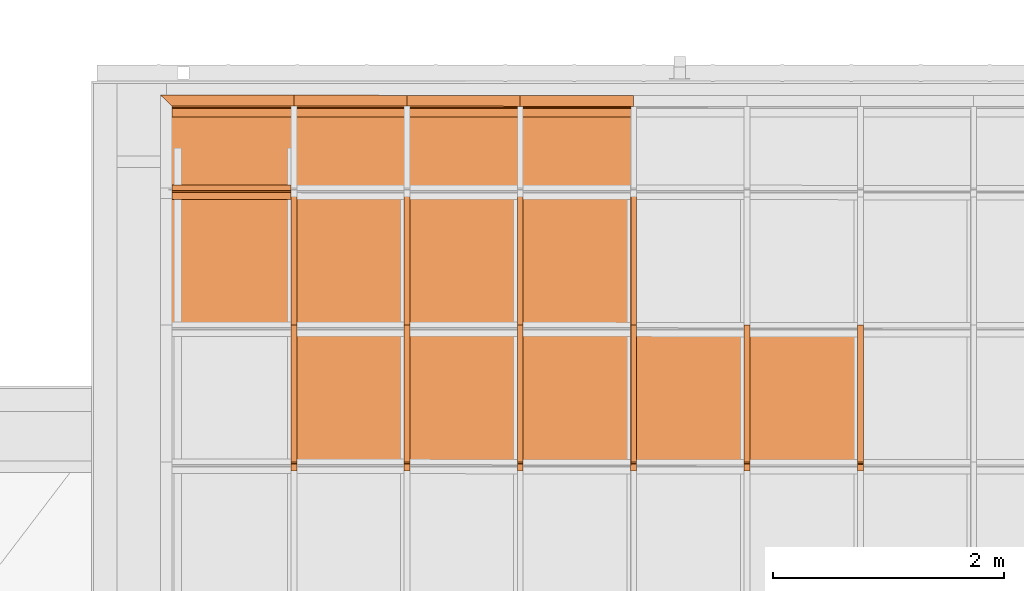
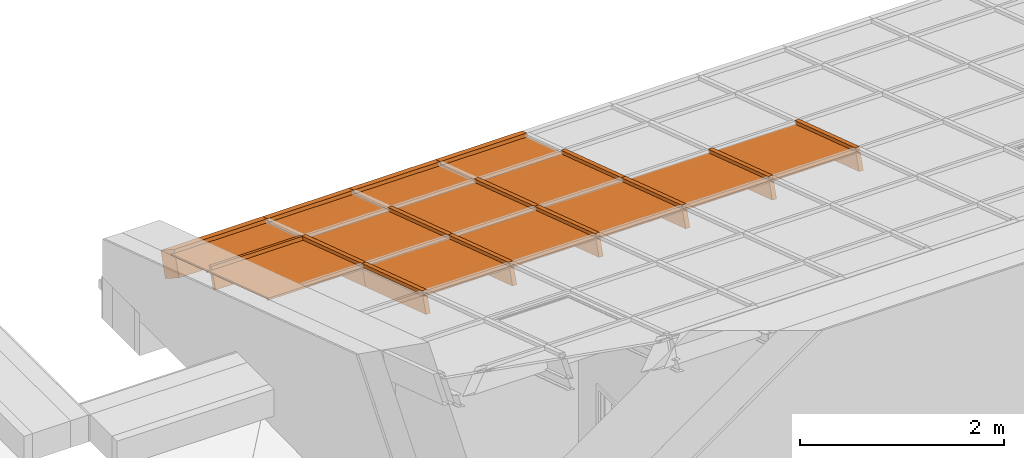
# One storey, part 32 of 47: 28 proxies, 1 element without a shape of its own.
"""IFC2X3 building model written with IfcOpenShell, lengths in millimetres."""

from ifc_helpers import new_model, entity, si_unit, converted_unit, derived_unit, money_unit, direction, frame, origin_with_axes, place, context, subcontext, project, spatial, polyline, outline, extrude, clip, halfspace, material, material_list, type_object, element, aggregate, save


model = new_model("IFC2X3")

# Units and contexts
model_context = context("Model", 3, precision=1e-05, world=origin_with_axes(), true_north=direction((0.0, 1.0)))
body_context = subcontext(model_context, "Body", "Model", "MODEL_VIEW")
ifc_project = project(units=[si_unit("LENGTHUNIT", "METRE", prefix="MILLI"), si_unit("AREAUNIT", "SQUARE_METRE"), si_unit("VOLUMEUNIT", "CUBIC_METRE"), converted_unit("PLANEANGLEUNIT", "DEGREE", entity("IfcPlaneAngleMeasure", 0.0174532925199), si_unit("PLANEANGLEUNIT", "RADIAN"), dimensions=[0, 0, 0, 0, 0, 0, 0]), si_unit("SOLIDANGLEUNIT", "STERADIAN"), money_unit("EUR"), converted_unit("TIMEUNIT", "Year", entity("IfcTimeMeasure", 31556926.0), si_unit("TIMEUNIT", "SECOND"), dimensions=[0, 0, 1, 0, 0, 0, 0]), si_unit("MASSUNIT", "GRAM", prefix="KILO"), si_unit("THERMODYNAMICTEMPERATUREUNIT", "DEGREE_CELSIUS"), si_unit("LUMINOUSINTENSITYUNIT", "LUMEN"), si_unit("ENERGYUNIT", "JOULE", prefix="MEGA"), derived_unit("THERMALCONDUCTANCEUNIT", [(si_unit("POWERUNIT", "WATT"), 1), (si_unit("LENGTHUNIT", "METRE"), -1), (si_unit("THERMODYNAMICTEMPERATUREUNIT", "KELVIN"), -1)]), derived_unit("SPECIFICHEATCAPACITYUNIT", [(si_unit("ENERGYUNIT", "JOULE"), 1), (si_unit("MASSUNIT", "GRAM", prefix="KILO"), -1), (si_unit("THERMODYNAMICTEMPERATUREUNIT", "KELVIN"), -1)]), derived_unit("MASSDENSITYUNIT", [(si_unit("MASSUNIT", "GRAM", prefix="KILO"), 1), (si_unit("VOLUMEUNIT", "CUBIC_METRE"), -1)])], contexts=[model_context])

# Site, building, storey
site_placement = place(None, origin_with_axes())
site = spatial("IfcSite", under=ifc_project, at=site_placement, Name="Site", CompositionType="ELEMENT")
building_placement = place(site_placement, origin_with_axes())
building = spatial("IfcBuilding", under=site, at=building_placement, Name="Building", CompositionType="ELEMENT")
storey_placement = place(building_placement, frame((0.0, 0.0, 6000.0), z_axis=(0.0, 0.0, 1.0), x_axis=(1.0, 0.0, 0.0)))
storey = spatial("IfcBuildingStorey", under=building, at=storey_placement, Name="KATUSEPLAAN", CompositionType="ELEMENT", Elevation=6000.0)

# Curtain wall, proxies
curtain_wall_type = type_object("IfcCurtainWallType", Name="KK-2", PredefinedType="NOTDEFINED")
curtain_wall_placement = place(storey_placement, frame((71638.1505463, 41358.6055567, 722.550081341), z_axis=(0.0, 0.0, 1.0), x_axis=(1.0, 0.0, 0.0)))
curtain_wall = element("IfcCurtainWall", 1, at=curtain_wall_placement, inside=storey, type_object=curtain_wall_type, Name="Talveaja klaaskatus")
ifc_material_1 = material(Name="Klaas")
building_element_proxy_type_1 = type_object("IfcBuildingElementProxyType", Name="Panel-Main-121", PredefinedType="NOTDEFINED")
proxy_1_placement = place(curtain_wall_placement, frame((-6931.87656995, 5606.27541844, 144.278730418), z_axis=(0.0, 0.0, 1.0), x_axis=(-0.999995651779, 0.00294896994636, 0.0)))
proxy_1 = element("IfcBuildingElementProxy", 2, at=proxy_1_placement, type_object=building_element_proxy_type_1, material=ifc_material_1, Name="Klaas;  Objekti nimi: Built-in CW Panel", context=body_context, shape_type="SweptSolid", body=[
    extrude(outline(polyline([(551.750073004, -403.916865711), (551.764075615, -398.916890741), (531.764159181, -398.860863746), (533.934646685, 375.87511597), (-551.820084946, 378.916976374), (-551.764074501, 398.916892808), (-556.764049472, 398.930895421), (-558.990580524, -395.805017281), (-553.990605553, -395.819019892), (-554.004608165, -400.818994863), (551.750073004, -403.916865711)])), frame((1.13686837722e-10, -3.12191252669, 9.50019274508), z_axis=(0.0, 0.312191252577, -0.950019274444), x_axis=(1.0, 0.0, 0.0)), (0.0, 0.0, 1.0), 20.0000000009),
])
building_element_proxy_type_2 = type_object("IfcBuildingElementProxyType", Name="Panel-Main-081", PredefinedType="NOTDEFINED")
proxy_2_placement = place(curtain_wall_placement, frame((-6931.87656995, 4635.00426569, 463.452296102), z_axis=(0.0, 0.0, 1.0), x_axis=(-0.999995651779, 0.00294896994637, 0.0)))
proxy_2 = element("IfcBuildingElementProxy", 3, at=proxy_2_placement, type_object=building_element_proxy_type_2, material=ifc_material_1, Name="Klaas;  Objekti nimi: Built-in CW Panel", context=body_context, shape_type="SweptSolid", body=[
    extrude(outline(polyline([(551.112347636, -631.546463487), (551.126350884, -626.546475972), (531.12641964, -626.49044416), (534.628417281, 623.50464688), (554.628329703, 623.448615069), (554.64233295, 628.448583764), (-551.112344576, 631.54646349), (-551.126347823, 626.546494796), (-556.126316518, 626.560498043), (-559.628314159, -623.434611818), (-554.628326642, -623.448615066), (-554.64232989, -628.44858376), (551.112347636, -631.546463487)])), frame((0.0, -3.12191252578, 9.50019274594), z_axis=(0.0, 0.312191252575, -0.950019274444), x_axis=(1.0, 0.0, 0.0)), (0.0, 0.0, 1.0), 20.0000000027),
])
building_element_proxy_type_3 = type_object("IfcBuildingElementProxyType", Name="Panel-Main-124", PredefinedType="NOTDEFINED")
proxy_3_placement = place(curtain_wall_placement, frame((-5888.99750429, 4634.70452601, 462.540163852), z_axis=(0.0, 0.0, 1.0), x_axis=(-0.999995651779, 0.00294896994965, 0.0)))
proxy_3 = element("IfcBuildingElementProxy", 4, at=proxy_3_placement, type_object=building_element_proxy_type_3, material=ifc_material_1, Name="Klaas;  Objekti nimi: Built-in CW Panel", context=body_context, shape_type="SweptSolid", body=[
    extrude(outline(polyline([(488.233079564, -631.370301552), (488.247097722, -626.370316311), (493.247064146, -626.384334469), (496.749044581, 623.610771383), (491.74905934, 623.624770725), (491.763077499, 628.624755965), (-488.233069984, 631.370301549), (-488.247088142, 626.370316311), (-493.247073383, 626.38431565), (-496.749035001, -623.610752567), (-491.749049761, -623.624770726), (-491.763067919, -628.624755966), (488.233079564, -631.370301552)])), frame((1.13686837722e-10, -3.12191252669, 9.50019274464), z_axis=(0.0, 0.312191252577, -0.950019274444), x_axis=(1.0, 0.0, 0.0)), (0.0, 0.0, 1.0), 20.0000000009),
])
building_element_proxy_type_4 = type_object("IfcBuildingElementProxyType", Name="Panel-Dist-156", PredefinedType="NOTDEFINED")
proxy_4_placement = place(curtain_wall_placement, frame((-4908.99791961, 4634.42285887, 461.683027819), z_axis=(0.0, 0.0, 1.0), x_axis=(-0.999995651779, 0.00294896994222, 0.0)))
proxy_4 = element("IfcBuildingElementProxy", 5, at=proxy_4_placement, type_object=building_element_proxy_type_4, material=ifc_material_1, Name="Klaas;  Objekti nimi: Built-in CW Panel", context=body_context, shape_type="SweptSolid", body=[
    extrude(outline(polyline([(488.23307956, -631.370301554), (488.247097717, -626.370316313), (493.247064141, -626.384334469), (496.749044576, 623.610771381), (491.749059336, 623.624770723), (491.763077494, 628.624755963), (-488.233069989, 631.37030155), (-488.247088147, 626.370316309), (-493.247073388, 626.38431565), (-496.749035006, -623.610752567), (-491.749049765, -623.624770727), (-491.763067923, -628.624755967), (488.23307956, -631.370301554)])), frame((0.0, -3.12191252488, 9.50019274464), z_axis=(0.0, 0.312191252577, -0.950019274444), x_axis=(1.0, 0.0, 0.0)), (0.0, 0.0, 1.0), 20.0000000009),
])
building_element_proxy_type_5 = type_object("IfcBuildingElementProxyType", Name="Panel-Main-125", PredefinedType="NOTDEFINED")
proxy_5_placement = place(curtain_wall_placement, frame((-3927.49833556, 4634.14076061, 460.824579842), z_axis=(0.0, 0.0, 1.0), x_axis=(-0.999995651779, 0.0029489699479, 0.0)))
proxy_5 = element("IfcBuildingElementProxy", 6, at=proxy_5_placement, type_object=building_element_proxy_type_5, material=ifc_material_1, Name="Klaas;  Objekti nimi: Built-in CW Panel", context=body_context, shape_type="SweptSolid", body=[
    extrude(outline(polyline([(489.733073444, -631.374503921), (489.747091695, -626.374523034), (494.747072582, -626.388522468), (498.249038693, 623.606567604), (493.249057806, 623.620567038), (493.263057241, 628.620547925), (-489.733083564, 631.37450392), (-489.747101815, 626.374523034), (-494.747082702, 626.388522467), (-498.249048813, -623.606567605), (-493.249067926, -623.620567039), (-493.26306736, -628.620547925), (489.733073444, -631.374503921)])), frame((0.0, -3.12191252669, 9.50019274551), z_axis=(0.0, 0.312191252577, -0.950019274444), x_axis=(1.0, 0.0, 0.0)), (0.0, 0.0, 1.0), 20.0000000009),
])
building_element_proxy_type_6 = type_object("IfcBuildingElementProxyType", Name="Panel-Main-177", PredefinedType="NOTDEFINED")
proxy_6_placement = place(curtain_wall_placement, frame((-5888.99750429, 3447.17992969, 852.777698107), z_axis=(0.0, 0.0, 1.0), x_axis=(-0.999995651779, 0.00294896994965, 0.0)))
proxy_6 = element("IfcBuildingElementProxy", 7, at=proxy_6_placement, type_object=building_element_proxy_type_6, material=ifc_material_1, Name="Klaas;  Objekti nimi: Built-in CW Panel", context=body_context, shape_type="SweptSolid", body=[
    extrude(outline(polyline([(488.233079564, -631.370301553), (488.247097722, -626.370316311), (493.247064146, -626.384334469), (496.749044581, 623.610771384), (491.74905934, 623.624770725), (491.763077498, 628.624755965), (-488.233069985, 631.37030155), (-488.247088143, 626.37031631), (-493.247073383, 626.384315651), (-496.749035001, -623.610752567), (-491.749049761, -623.624770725), (-491.763067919, -628.624755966), (488.233079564, -631.370301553)])), frame((0.0, -3.12191252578, 9.50019274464), z_axis=(0.0, 0.312191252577, -0.950019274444), x_axis=(1.0, 0.0, 0.0)), (0.0, 0.0, 1.0), 20.0000000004),
])
building_element_proxy_type_7 = type_object("IfcBuildingElementProxyType", Name="Panel-Main-136", PredefinedType="NOTDEFINED")
proxy_7_placement = place(curtain_wall_placement, frame((-4908.99791961, 3446.89826256, 851.920562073), z_axis=(0.0, 0.0, 1.0), x_axis=(-0.999995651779, 0.00294896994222, 0.0)))
proxy_7 = element("IfcBuildingElementProxy", 8, at=proxy_7_placement, type_object=building_element_proxy_type_7, material=ifc_material_1, Name="Klaas;  Objekti nimi: Built-in CW Panel", context=body_context, shape_type="SweptSolid", body=[
    extrude(outline(polyline([(488.23307956, -631.370301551), (488.247097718, -626.370316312), (493.247064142, -626.384334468), (496.749044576, 623.610771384), (491.749059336, 623.624770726), (491.763077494, 628.624755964), (-488.233069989, 631.370301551), (-488.247088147, 626.37031631), (-493.247073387, 626.384315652), (-496.749035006, -623.610752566), (-491.749049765, -623.624770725), (-491.763067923, -628.624755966), (488.23307956, -631.370301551)])), frame((0.0, -3.12191252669, 9.50019274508), z_axis=(0.0, 0.312191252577, -0.950019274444), x_axis=(1.0, 0.0, 0.0)), (0.0, 0.0, 1.0), 20.0000000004),
])
building_element_proxy_type_8 = type_object("IfcBuildingElementProxyType", Name="Panel-Dist-168", PredefinedType="NOTDEFINED")
proxy_8_placement = place(curtain_wall_placement, frame((-3927.49833556, 3446.6161643, 851.062114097), z_axis=(0.0, 0.0, 1.0), x_axis=(-0.999995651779, 0.0029489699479, 0.0)))
proxy_8 = element("IfcBuildingElementProxy", 9, at=proxy_8_placement, type_object=building_element_proxy_type_8, material=ifc_material_1, Name="Klaas;  Objekti nimi: Built-in CW Panel", context=body_context, shape_type="SweptSolid", body=[
    extrude(outline(polyline([(489.733073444, -631.374503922), (489.747091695, -626.374523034), (494.747072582, -626.388522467), (498.249038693, 623.606567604), (493.249057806, 623.620567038), (493.263057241, 628.620547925), (-489.733083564, 631.374503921), (-489.747101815, 626.374523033), (-494.747082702, 626.388522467), (-498.249048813, -623.606567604), (-493.249067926, -623.620567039), (-493.26306736, -628.620547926), (489.733073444, -631.374503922)])), frame((0.0, -3.12191252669, 9.50019274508), z_axis=(0.0, 0.312191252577, -0.950019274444), x_axis=(1.0, 0.0, 0.0)), (0.0, 0.0, 1.0), 20.0000000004),
])
building_element_proxy_type_9 = type_object("IfcBuildingElementProxyType", Name="Panel-Main-137", PredefinedType="NOTDEFINED")
proxy_9_placement = place(curtain_wall_placement, frame((-2944.49875215, 3446.33363491, 850.202354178), z_axis=(0.0, 0.0, 1.0), x_axis=(-0.999995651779, 0.0029489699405, 0.0)))
proxy_9 = element("IfcBuildingElementProxy", 10, at=proxy_9_placement, type_object=building_element_proxy_type_9, material=ifc_material_1, Name="Klaas;  Objekti nimi: Built-in CW Panel", context=body_context, shape_type="SweptSolid", body=[
    extrude(outline(polyline([(489.73307344, -631.374503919), (489.747091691, -626.374523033), (494.747072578, -626.388522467), (498.249038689, 623.606567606), (493.249057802, 623.620567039), (493.263057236, 628.620547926), (-489.733083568, 631.374503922), (-489.747101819, 626.374523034), (-494.747082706, 626.388522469), (-498.249048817, -623.606567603), (-493.24906793, -623.620567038), (-493.263067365, -628.620547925), (489.73307344, -631.374503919)])), frame((1.13686837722e-10, -3.12191252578, 9.50019274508), z_axis=(0.0, 0.312191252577, -0.950019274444), x_axis=(1.0, 0.0, 0.0)), (0.0, 0.0, 1.0), 20.0000000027),
])
building_element_proxy_type_10 = type_object("IfcBuildingElementProxyType", Name="Panel-Dist-169", PredefinedType="NOTDEFINED")
proxy_10_placement = place(curtain_wall_placement, frame((-1961.49916873, 3446.05110553, 849.342594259), z_axis=(0.0, 0.0, 1.0), x_axis=(-0.999995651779, 0.00294896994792, 0.0)))
proxy_10 = element("IfcBuildingElementProxy", 11, at=proxy_10_placement, type_object=building_element_proxy_type_10, material=ifc_material_1, Name="Klaas;  Objekti nimi: Built-in CW Panel", context=body_context, shape_type="SweptSolid", body=[
    extrude(outline(polyline([(489.733073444, -631.374503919), (489.747091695, -626.374523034), (494.747072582, -626.388522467), (498.249038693, 623.606567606), (493.249057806, 623.620567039), (493.26305724, 628.620547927), (-489.733083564, 631.374503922), (-489.747101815, 626.374523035), (-494.747082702, 626.388522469), (-498.249048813, -623.606567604), (-493.249067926, -623.620567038), (-493.26306736, -628.620547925), (489.733073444, -631.374503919)])), frame((0.0, -3.12191252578, 9.50019274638), z_axis=(0.0, 0.312191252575, -0.950019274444), x_axis=(1.0, 0.0, 0.0)), (0.0, 0.0, 1.0), 20.0000000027),
])
building_element_proxy_type_11 = type_object("IfcBuildingElementProxyType", Name="Panel-Main-069", PredefinedType="NOTDEFINED")
proxy_11_placement = place(curtain_wall_placement, frame((-5888.99750429, 5605.97567876, 143.366598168), z_axis=(0.0, 0.0, 1.0), x_axis=(-0.999995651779, 0.00294896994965, 0.0)))
proxy_11 = element("IfcBuildingElementProxy", 12, at=proxy_11_placement, type_object=building_element_proxy_type_11, material=ifc_material_1, Name="Klaas;  Objekti nimi: Built-in CW Panel", context=body_context, shape_type="SweptSolid", body=[
    extrude(outline(polyline([(488.870818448, -403.740707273), (488.884820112, -398.740723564), (493.884789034, -398.754740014), (496.111319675, 395.981176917), (491.111335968, 395.995178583), (491.055314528, 375.995258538), (-488.940856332, 378.740796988), (-488.884805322, 398.740731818), (-493.884789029, 398.75473348), (-496.11131967, -395.981168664), (-491.111335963, -395.995170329), (-491.125337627, -400.995154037), (488.870818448, -403.740707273)])), frame((0.0, -3.12191252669, 9.50019274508), z_axis=(0.0, 0.312191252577, -0.950019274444), x_axis=(1.0, 0.0, 0.0)), (0.0, 0.0, 1.0), 20.0000000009),
])
building_element_proxy_type_12 = type_object("IfcBuildingElementProxyType", Name="Panel-Main-150", PredefinedType="NOTDEFINED")
proxy_12_placement = place(curtain_wall_placement, frame((-4908.99791961, 5605.69401163, 142.509462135), z_axis=(0.0, 0.0, 1.0), x_axis=(-0.999995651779, 0.00294896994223, 0.0)))
proxy_12 = element("IfcBuildingElementProxy", 13, at=proxy_12_placement, type_object=building_element_proxy_type_12, material=ifc_material_1, Name="Klaas;  Objekti nimi: Built-in CW Panel", context=body_context, shape_type="SweptSolid", body=[
    extrude(outline(polyline([(488.870818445, -403.740707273), (488.884820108, -398.740723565), (493.88478903, -398.754740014), (496.111319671, 395.981176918), (491.111335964, 395.995178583), (491.055314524, 375.995258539), (-488.940856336, 378.740796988), (-488.884805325, 398.740731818), (-493.884789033, 398.754733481), (-496.111319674, -395.981168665), (-491.111335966, -395.99517033), (-491.12533763, -400.995154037), (488.870818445, -403.740707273)])), frame((0.0, -3.12191252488, 9.50019274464), z_axis=(0.0, 0.312191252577, -0.950019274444), x_axis=(1.0, 0.0, 0.0)), (0.0, 0.0, 1.0), 20.0),
])
building_element_proxy_type_13 = type_object("IfcBuildingElementProxyType", Name="Panel-Main-070", PredefinedType="NOTDEFINED")
proxy_13_placement = place(curtain_wall_placement, frame((-3927.49833556, 5605.41191337, 141.651014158), z_axis=(0.0, 0.0, 1.0), x_axis=(-0.999995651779, 0.00294896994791, 0.0)))
proxy_13 = element("IfcBuildingElementProxy", 14, at=proxy_13_placement, type_object=building_element_proxy_type_13, material=ifc_material_1, Name="Klaas;  Objekti nimi: Built-in CW Panel", context=body_context, shape_type="SweptSolid", body=[
    extrude(outline(polyline([(490.370795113, -403.744911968), (490.384809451, -398.744922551), (495.384784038, -398.75893689), (497.611313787, 395.976963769), (492.6113392, 395.990978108), (492.55529668, 375.9910501), (-490.44083714, 378.745008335), (-490.384809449, 398.744936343), (-495.384798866, 398.758935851), (-497.611313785, -395.976964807), (-492.611339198, -395.990964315), (-492.625338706, -400.990953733), (490.370795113, -403.744911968)])), frame((0.0, -3.12191252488, 9.50019274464), z_axis=(0.0, 0.312191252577, -0.950019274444), x_axis=(1.0, 0.0, 0.0)), (0.0, 0.0, 1.0), 20.0000000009),
])
ifc_material_2 = material(Name="Alumiinium (1)")
ifc_material_list = material_list([ifc_material_2, ifc_material_2])
building_element_proxy_type_14 = type_object("IfcBuildingElementProxyType", Name="Frame-Trs-171", PredefinedType="NOTDEFINED")
proxy_14_placement = place(curtain_wall_placement, frame((-7484.75584326, 5228.92546996, 268.817093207), z_axis=(0.999999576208, -0.000287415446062, -0.000874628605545), x_axis=(0.0, -0.950019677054, 0.312190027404)))
proxy_14 = element("IfcBuildingElementProxy", 15, at=proxy_14_placement, type_object=building_element_proxy_type_14, material=ifc_material_list, Name="Alumiinium (1);  Objekti nimi: Frame 22", context=body_context, shape_type="SweptSolid", body=[
    extrude(outline(polyline([(26.8723924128, 1.69544270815), (86.1885203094, 182.199173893), (38.6875384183, 197.808681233), (-20.6285894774, 17.3049500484), (26.8723924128, 1.69544270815)])), frame((0.0, 0.0, 50.0000000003), z_axis=(0.0, 0.0, 1.0), x_axis=(0.950019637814, 0.312190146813, 0.0)), (0.0, 0.0, 1.0), 1030.75901524),
    extrude(outline(polyline([(-26.8723924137, -1.69544270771), (-39.3599982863, -39.69622822), (8.14098360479, -55.3057355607), (20.6285894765, -17.3049500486), (-26.8723924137, -1.69544270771)])), frame((0.0, 0.0, 50.0000000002), z_axis=(0.0, 0.0, 1.0), x_axis=(0.950019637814, 0.312190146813, 0.0)), (0.0, 0.0, 1.0), 1030.75901524),
])
building_element_proxy_type_15 = type_object("IfcBuildingElementProxyType", Name="Frame-Mll-217", PredefinedType="NOTDEFINED")
proxy_15_placement = place(curtain_wall_placement, frame((-6378.99729663, 5228.60765774, 267.849964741), z_axis=(0.0, -0.950019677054, 0.312190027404), x_axis=(-0.999999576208, 0.000287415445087, 0.000874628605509)))
proxy_15 = element("IfcBuildingElementProxy", 16, at=proxy_15_placement, type_object=building_element_proxy_type_15, material=ifc_material_list, Name="Alumiinium (1);  Objekti nimi: Frame 22", context=body_context, shape_type="SweptSolid", body=[
    extrude(outline(polyline([(25.0091958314, 9.9769796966), (25.1841179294, 199.976899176), (-24.8158608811, 200.022931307), (-24.990782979, 10.0230118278), (25.0091958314, 9.9769796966)])), frame((0.0, 0.0, 0.0), z_axis=(0.0, 0.0, 1.0), x_axis=(0.999999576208, 0.000920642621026, 0.0)), (0.0, 0.0, 1.0), 1250.0),
    extrude(outline(polyline([(-25.0091958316, -9.9769796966), (-25.0460215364, -49.9769627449), (24.9539572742, -50.0229948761), (24.990782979, -10.0230118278), (-25.0091958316, -9.9769796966)])), frame((0.0, 0.0, 0.0), z_axis=(0.0, 0.0, 1.0), x_axis=(0.999999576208, 0.000920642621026, 0.0)), (0.0, 0.0, 1.0), 1250.0),
])
building_element_proxy_type_16 = type_object("IfcBuildingElementProxyType", Name="Frame-Mll-218", PredefinedType="NOTDEFINED")
proxy_16_placement = place(curtain_wall_placement, frame((-5398.99771195, 5228.3259906, 266.992828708), z_axis=(0.0, -0.950019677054, 0.312190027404), x_axis=(-0.999999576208, 0.000287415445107, 0.00087462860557)))
proxy_16 = element("IfcBuildingElementProxy", 17, at=proxy_16_placement, type_object=building_element_proxy_type_16, material=ifc_material_list, Name="Alumiinium (1);  Objekti nimi: Frame 22", context=body_context, shape_type="SweptSolid", body=[
    extrude(outline(polyline([(25.0091958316, 9.9769796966), (25.1841179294, 199.976899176), (-24.8158608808, 200.022931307), (-24.990782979, 10.0230118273), (25.0091958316, 9.9769796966)])), frame((0.0, 0.0, 0.0), z_axis=(0.0, 0.0, 1.0), x_axis=(0.999999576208, 0.00092064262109, 0.0)), (0.0, 0.0, 1.0), 1250.0),
    extrude(outline(polyline([(-25.0091958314, -9.9769796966), (-25.0460215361, -49.9769627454), (24.9539572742, -50.0229948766), (24.9907829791, -10.0230118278), (-25.0091958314, -9.9769796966)])), frame((0.0, -4.54747350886e-10, 9.09494701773e-10), z_axis=(0.0, 0.0, 1.0), x_axis=(0.999999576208, 0.00092064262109, 0.0)), (0.0, 0.0, 1.0), 1250.0),
])
building_element_proxy_type_17 = type_object("IfcBuildingElementProxyType", Name="Frame-Mll-219", PredefinedType="NOTDEFINED")
proxy_17_placement = place(curtain_wall_placement, frame((-4418.99812727, 5228.04432346, 266.135692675), z_axis=(0.0, -0.950019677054, 0.312190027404), x_axis=(-0.999999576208, 0.000287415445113, 0.000874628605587)))
proxy_17 = element("IfcBuildingElementProxy", 18, at=proxy_17_placement, type_object=building_element_proxy_type_17, material=ifc_material_list, Name="Alumiinium (1);  Objekti nimi: Frame 22", context=body_context, shape_type="SweptSolid", body=[
    extrude(outline(polyline([(25.0091958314, 9.9769796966), (25.1841179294, 199.976899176), (-24.8158608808, 200.022931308), (-24.990782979, 10.0230118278), (25.0091958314, 9.9769796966)])), frame((0.0, 0.0, -2.72848410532e-09), z_axis=(0.0, 0.0, 1.0), x_axis=(0.999999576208, 0.000920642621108, 0.0)), (0.0, 0.0, 1.0), 1250.0),
    extrude(outline(polyline([(-25.0091958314, -9.9769796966), (-25.0460215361, -49.9769627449), (24.9539572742, -50.0229948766), (24.9907829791, -10.0230118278), (-25.0091958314, -9.9769796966)])), frame((0.0, 0.0, -2.72848410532e-09), z_axis=(0.0, 0.0, 1.0), x_axis=(0.999999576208, 0.000920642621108, 0.0)), (0.0, 0.0, 1.0), 1250.0),
])
building_element_proxy_type_18 = type_object("IfcBuildingElementProxyType", Name="Frame-Mll-220", PredefinedType="NOTDEFINED")
proxy_18_placement = place(curtain_wall_placement, frame((-3435.99854385, 5227.76179408, 265.275932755), z_axis=(0.0, -0.950019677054, 0.312190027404), x_axis=(-0.999999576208, 0.000287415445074, 0.000874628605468)))
proxy_18 = element("IfcBuildingElementProxy", 19, at=proxy_18_placement, type_object=building_element_proxy_type_18, material=ifc_material_list, Name="Alumiinium (1);  Objekti nimi: Frame 22", context=body_context, shape_type="SweptSolid", body=[
    extrude(outline(polyline([(25.0091958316, 9.97697969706), (25.1841179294, 199.976899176), (-24.8158608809, 200.022931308), (-24.9907829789, 10.0230118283), (25.0091958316, 9.97697969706)])), frame((0.0, 0.0, -1.81898940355e-09), z_axis=(0.0, 0.0, 1.0), x_axis=(0.999999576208, 0.000920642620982, 0.0)), (0.0, 0.0, 1.0), 1250.0),
    extrude(outline(polyline([(-25.0091958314, -9.97697969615), (-25.0460215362, -49.9769627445), (24.9539572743, -50.0229948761), (24.990782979, -10.0230118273), (-25.0091958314, -9.97697969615)])), frame((0.0, 0.0, -1.81898940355e-09), z_axis=(0.0, 0.0, 1.0), x_axis=(0.999999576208, 0.000920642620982, 0.0)), (0.0, 0.0, 1.0), 1250.0),
])
building_element_proxy_type_19 = type_object("IfcBuildingElementProxyType", Name="Frame-Mll-240", PredefinedType="NOTDEFINED")
proxy_19_placement = place(curtain_wall_placement, frame((-6378.99729663, 4041.08306142, 658.087498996), z_axis=(0.0, -0.950019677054, 0.312190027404), x_axis=(-0.999999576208, 0.000287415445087, 0.000874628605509)))
proxy_19 = element("IfcBuildingElementProxy", 20, at=proxy_19_placement, type_object=building_element_proxy_type_19, material=ifc_material_list, Name="Alumiinium (1);  Objekti nimi: Frame 22", context=body_context, shape_type="SweptSolid", body=[
    extrude(outline(polyline([(25.0091958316, 9.97697969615), (25.1841179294, 199.976899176), (-24.8158608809, 200.022931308), (-24.9907829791, 10.0230118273), (25.0091958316, 9.97697969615)])), frame((0.0, 0.0, 0.0), z_axis=(0.0, 0.0, 1.0), x_axis=(0.999999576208, 0.000920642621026, 0.0)), (0.0, 0.0, 1.0), 1250.0),
    extrude(outline(polyline([(-25.0091958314, -9.9769796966), (-25.0460215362, -49.9769627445), (24.9539572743, -50.0229948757), (24.9907829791, -10.0230118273), (-25.0091958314, -9.9769796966)])), frame((0.0, 0.0, 0.0), z_axis=(0.0, 0.0, 1.0), x_axis=(0.999999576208, 0.000920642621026, 0.0)), (0.0, 0.0, 1.0), 1250.0),
])
building_element_proxy_type_20 = type_object("IfcBuildingElementProxyType", Name="Frame-Mll-241", PredefinedType="NOTDEFINED")
proxy_20_placement = place(curtain_wall_placement, frame((-5398.99771195, 4040.80139428, 657.230362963), z_axis=(0.0, -0.950019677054, 0.312190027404), x_axis=(-0.999999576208, 0.000287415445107, 0.00087462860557)))
proxy_20 = element("IfcBuildingElementProxy", 21, at=proxy_20_placement, type_object=building_element_proxy_type_20, material=ifc_material_list, Name="Alumiinium (1);  Objekti nimi: Frame 22", context=body_context, shape_type="SweptSolid", body=[
    extrude(outline(polyline([(25.0091958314, 9.9769796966), (25.1841179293, 199.976899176), (-24.8158608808, 200.022931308), (-24.990782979, 10.0230118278), (25.0091958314, 9.9769796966)])), frame((0.0, 0.0, 0.0), z_axis=(0.0, 0.0, 1.0), x_axis=(0.999999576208, 0.00092064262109, 0.0)), (0.0, 0.0, 1.0), 1250.0),
    extrude(outline(polyline([(-25.0091958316, -9.97697969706), (-25.0460215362, -49.976962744), (24.9539572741, -50.0229948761), (24.9907829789, -10.0230118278), (-25.0091958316, -9.97697969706)])), frame((0.0, 0.0, 0.0), z_axis=(0.0, 0.0, 1.0), x_axis=(0.999999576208, 0.00092064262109, 0.0)), (0.0, 0.0, 1.0), 1250.0),
])
building_element_proxy_type_21 = type_object("IfcBuildingElementProxyType", Name="Frame-Mll-242", PredefinedType="NOTDEFINED")
proxy_21_placement = place(curtain_wall_placement, frame((-4418.99812727, 4040.51972715, 656.373226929), z_axis=(0.0, -0.950019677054, 0.312190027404), x_axis=(-0.999999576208, 0.000287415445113, 0.000874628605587)))
proxy_21 = element("IfcBuildingElementProxy", 22, at=proxy_21_placement, type_object=building_element_proxy_type_21, material=ifc_material_list, Name="Alumiinium (1);  Objekti nimi: Frame 22", context=body_context, shape_type="SweptSolid", body=[
    extrude(outline(polyline([(25.0091958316, 9.9769796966), (25.1841179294, 199.976899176), (-24.8158608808, 200.022931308), (-24.990782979, 10.0230118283), (25.0091958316, 9.9769796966)])), frame((0.0, 0.0, -2.72848410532e-09), z_axis=(0.0, 0.0, 1.0), x_axis=(0.999999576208, 0.000920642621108, 0.0)), (0.0, 0.0, 1.0), 1250.0),
    extrude(outline(polyline([(-25.0091958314, -9.97697969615), (-25.0460215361, -49.9769627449), (24.9539572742, -50.0229948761), (24.9907829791, -10.0230118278), (-25.0091958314, -9.97697969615)])), frame((0.0, 0.0, -2.72848410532e-09), z_axis=(0.0, 0.0, 1.0), x_axis=(0.999999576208, 0.000920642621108, 0.0)), (0.0, 0.0, 1.0), 1250.0),
])
building_element_proxy_type_22 = type_object("IfcBuildingElementProxyType", Name="Frame-Mll-243", PredefinedType="NOTDEFINED")
proxy_22_placement = place(curtain_wall_placement, frame((-3435.99854385, 4040.23719776, 655.51346701), z_axis=(0.0, -0.950019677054, 0.312190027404), x_axis=(-0.999999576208, 0.000287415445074, 0.000874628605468)))
proxy_22 = element("IfcBuildingElementProxy", 23, at=proxy_22_placement, type_object=building_element_proxy_type_22, material=ifc_material_list, Name="Alumiinium (1);  Objekti nimi: Frame 22", context=body_context, shape_type="SweptSolid", body=[
    extrude(outline(polyline([(25.0091958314, 9.9769796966), (25.1841179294, 199.976899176), (-24.8158608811, 200.022931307), (-24.9907829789, 10.0230118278), (25.0091958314, 9.9769796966)])), frame((0.0, 0.0, -1.81898940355e-09), z_axis=(0.0, 0.0, 1.0), x_axis=(0.999999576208, 0.000920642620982, 0.0)), (0.0, 0.0, 1.0), 1250.0),
    extrude(outline(polyline([(-25.0091958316, -9.97697969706), (-25.0460215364, -49.9769627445), (24.9539572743, -50.0229948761), (24.9907829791, -10.0230118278), (-25.0091958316, -9.97697969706)])), frame((0.0, 0.0, -9.09494701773e-10), z_axis=(0.0, 0.0, 1.0), x_axis=(0.999999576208, 0.000920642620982, 0.0)), (0.0, 0.0, 1.0), 1250.0),
])
building_element_proxy_type_23 = type_object("IfcBuildingElementProxyType", Name="Frame-Mll-244", PredefinedType="NOTDEFINED")
proxy_23_placement = place(curtain_wall_placement, frame((-2452.99896044, 4039.95466838, 654.653707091), z_axis=(0.0, -0.950019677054, 0.312190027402), x_axis=(-0.999999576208, 0.000287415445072, 0.000874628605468)))
proxy_23 = element("IfcBuildingElementProxy", 24, at=proxy_23_placement, type_object=building_element_proxy_type_23, material=ifc_material_list, Name="Alumiinium (1);  Objekti nimi: Frame 22", context=body_context, shape_type="SweptSolid", body=[
    extrude(outline(polyline([(25.0091958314, 9.9769796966), (25.1841179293, 199.976899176), (-24.8158608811, 200.022931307), (-24.9907829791, 10.0230118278), (25.0091958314, 9.9769796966)])), frame((0.0, 0.0, -1.81898940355e-09), z_axis=(0.0, 0.0, 1.0), x_axis=(0.999999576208, 0.000920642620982, 0.0)), (0.0, 0.0, 1.0), 1250.00000001),
    extrude(outline(polyline([(-25.0091958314, -9.97697969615), (-25.0460215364, -49.9769627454), (24.9539572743, -50.0229948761), (24.990782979, -10.0230118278), (-25.0091958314, -9.97697969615)])), frame((0.0, 0.0, -1.81898940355e-09), z_axis=(0.0, 0.0, 1.0), x_axis=(0.999999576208, 0.000920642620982, 0.0)), (0.0, 0.0, 1.0), 1250.00000001),
])
building_element_proxy_type_24 = type_object("IfcBuildingElementProxyType", Name="Frame-Mll-245", PredefinedType="NOTDEFINED")
proxy_24_placement = place(curtain_wall_placement, frame((-1469.99937703, 4039.672139, 653.793947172), z_axis=(0.0, -0.950019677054, 0.312190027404), x_axis=(-0.999999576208, 0.000287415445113, 0.000874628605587)))
proxy_24 = element("IfcBuildingElementProxy", 25, at=proxy_24_placement, type_object=building_element_proxy_type_24, material=ifc_material_list, Name="Alumiinium (1);  Objekti nimi: Frame 22", context=body_context, shape_type="SweptSolid", body=[
    extrude(outline(polyline([(25.0091958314, 9.97697969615), (25.1841179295, 199.976899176), (-24.8158608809, 200.022931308), (-24.990782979, 10.0230118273), (25.0091958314, 9.97697969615)])), frame((0.0, 0.0, -9.09494701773e-10), z_axis=(0.0, 0.0, 1.0), x_axis=(0.999999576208, 0.000920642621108, 0.0)), (0.0, 0.0, 1.0), 1250.0),
    extrude(outline(polyline([(-25.0091958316, -9.9769796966), (-25.0460215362, -49.9769627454), (24.9539572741, -50.0229948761), (24.9907829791, -10.0230118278), (-25.0091958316, -9.9769796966)])), frame((0.0, 0.0, -9.09494701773e-10), z_axis=(0.0, 0.0, 1.0), x_axis=(0.999999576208, 0.000920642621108, 0.0)), (0.0, 0.0, 1.0), 1250.0),
])
building_element_proxy_type_25 = type_object("IfcBuildingElementProxyType", Name="Frame-Bnd-609", PredefinedType="NOTDEFINED")
proxy_25_placement = place(curtain_wall_placement, frame((-7484.75584326, 5983.94317915, 20.7074960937), z_axis=(0.999999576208, -0.000287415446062, -0.000874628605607), x_axis=(0.0, -0.950019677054, 0.312190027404)))
proxy_25 = element("IfcBuildingElementProxy", 26, at=proxy_25_placement, type_object=building_element_proxy_type_25, material=ifc_material_2, Name="Alumiinium (1);  Objekti nimi: Built-in Frame", context=body_context, shape_type="Clipping", body=[
    clip(extrude(outline(polyline([(22.1222942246, 3.25639344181), (50.6228833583, -6.10931096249), (125.548518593, 221.895402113), (30.5465548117, 253.114416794), (-63.1104892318, -31.8914745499), (31.8914745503, -63.1104892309), (44.379080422, -25.1097037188), (15.8784912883, -15.7439993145), (22.1222942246, 3.25639344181)])), frame((-9.09494701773e-10, 4.54747350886e-10, -50.0000000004), z_axis=(0.0, 0.0, 1.0), x_axis=(0.950019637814, 0.312190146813, 0.0)), (0.0, 0.0, 1.0), 1155.75901524), halfspace(frame((-2.02914824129e-10, 0.0, 2.02914824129e-10), z_axis=(-0.707106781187, 0.0, 0.707106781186), x_axis=(0.0, -1.0, 0.0)), True)),
])
building_element_proxy_type_26 = type_object("IfcBuildingElementProxyType", Name="Frame-Bnd-610", PredefinedType="NOTDEFINED")
proxy_26_placement = place(curtain_wall_placement, frame((-6378.99729663, 5983.62536693, 19.7403676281), z_axis=(0.999999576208, -0.000287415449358, -0.000874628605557), x_axis=(0.0, -0.950019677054, 0.312190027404)))
proxy_26 = element("IfcBuildingElementProxy", 27, at=proxy_26_placement, type_object=building_element_proxy_type_26, material=ifc_material_2, Name="Alumiinium (1);  Objekti nimi: Built-in Frame", context=body_context, shape_type="SweptSolid", body=[
    extrude(outline(polyline([(22.1222942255, 3.25639344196), (50.6228833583, -6.10931096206), (125.548518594, 221.895402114), (30.5465548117, 253.114416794), (-63.1104892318, -31.8914745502), (31.8914745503, -63.1104892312), (44.379080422, -25.1097037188), (15.8784912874, -15.7439993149), (22.1222942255, 3.25639344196)])), frame((0.0, 0.0, 0.0), z_axis=(0.0, 0.0, 1.0), x_axis=(0.950019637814, 0.312190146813, 0.0)), (0.0, 0.0, 1.0), 980.000000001),
])
building_element_proxy_type_27 = type_object("IfcBuildingElementProxyType", Name="Frame-Bnd-611", PredefinedType="NOTDEFINED")
proxy_27_placement = place(curtain_wall_placement, frame((-5398.99771195, 5983.34369979, 18.8832315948), z_axis=(0.999999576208, -0.000287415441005, -0.000874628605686), x_axis=(0.0, -0.950019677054, 0.312190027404)))
proxy_27 = element("IfcBuildingElementProxy", 28, at=proxy_27_placement, type_object=building_element_proxy_type_27, material=ifc_material_2, Name="Alumiinium (1);  Objekti nimi: Built-in Frame", context=body_context, shape_type="SweptSolid", body=[
    extrude(outline(polyline([(22.1222942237, 3.25639344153), (50.6228833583, -6.10931096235), (125.548518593, 221.895402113), (30.5465548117, 253.114416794), (-63.1104892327, -31.8914745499), (31.8914745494, -63.1104892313), (44.379080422, -25.1097037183), (15.8784912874, -15.7439993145), (22.1222942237, 3.25639344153)])), frame((0.0, 0.0, -6.8212102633e-10), z_axis=(0.0, 0.0, 1.0), x_axis=(0.950019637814, 0.312190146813, 0.0)), (0.0, 0.0, 1.0), 980.000000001),
])
building_element_proxy_type_28 = type_object("IfcBuildingElementProxyType", Name="Frame-Bnd-612", PredefinedType="NOTDEFINED")
proxy_28_placement = place(curtain_wall_placement, frame((-4418.99812727, 5983.06203266, 18.0260955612), z_axis=(0.999999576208, -0.000287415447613, -0.000874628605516), x_axis=(0.0, -0.950019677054, 0.312190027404)))
proxy_28 = element("IfcBuildingElementProxy", 29, at=proxy_28_placement, type_object=building_element_proxy_type_28, material=ifc_material_2, Name="Alumiinium (1);  Objekti nimi: Built-in Frame", context=body_context, shape_type="SweptSolid", body=[
    extrude(outline(polyline([(22.1222942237, 3.25639344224), (50.6228833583, -6.10931096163), (125.548518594, 221.895402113), (30.5465548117, 253.114416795), (-63.1104892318, -31.8914745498), (31.8914745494, -63.1104892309), (44.3790804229, -25.1097037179), (15.8784912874, -15.7439993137), (22.1222942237, 3.25639344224)])), frame((0.0, 0.0, -3.41060513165e-10), z_axis=(0.0, 0.0, 1.0), x_axis=(0.950019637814, 0.312190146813, 0.0)), (0.0, 0.0, 1.0), 983.000000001),
])
aggregate(curtain_wall, [proxy_1, proxy_2, proxy_3, proxy_4, proxy_5, proxy_6, proxy_7, proxy_8, proxy_9, proxy_10, proxy_11, proxy_12, proxy_13, proxy_14, proxy_15, proxy_16, proxy_17, proxy_18, proxy_19, proxy_20, proxy_21, proxy_22, proxy_23, proxy_24, proxy_25, proxy_26, proxy_27, proxy_28])

save(model, "model.ifc")
